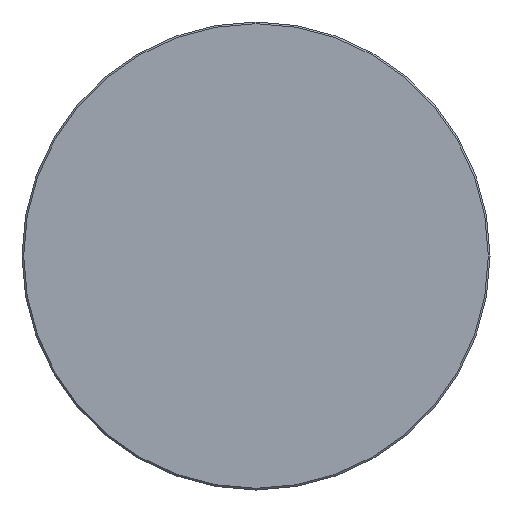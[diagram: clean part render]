
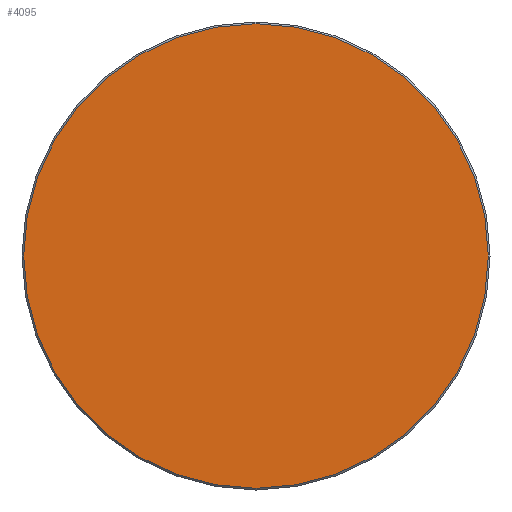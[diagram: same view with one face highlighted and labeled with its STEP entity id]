
A CAD part, left-side view. The second image highlights one B-rep face of the part: STEP entity #4095.
In plain terms, the highlighted planar face has unit normal (-1, 0, 0).
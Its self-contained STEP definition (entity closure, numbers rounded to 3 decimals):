
#194=CARTESIAN_POINT('',(-99.828,0.,0.));
#195=DIRECTION('',(-1.,0.,0.));
#196=DIRECTION('',(0.,-1.,0.));
#197=AXIS2_PLACEMENT_3D('',#194,#195,#196);
#199=CARTESIAN_POINT('',(-99.828,0.,0.));
#200=DIRECTION('',(-1.,0.,0.));
#201=DIRECTION('',(0.,1.,0.));
#202=AXIS2_PLACEMENT_3D('',#199,#200,#201);
#3351=CARTESIAN_POINT('',(-99.828,-40.2,0.));
#3352=CARTESIAN_POINT('',(-99.828,40.2,0.));
#3353=VERTEX_POINT('',#3351);
#3354=VERTEX_POINT('',#3352);
#4085=CARTESIAN_POINT('',(-99.828,0.,0.));
#4086=DIRECTION('',(-1.,0.,0.));
#4087=DIRECTION('',(0.,1.,0.));
#4088=AXIS2_PLACEMENT_3D('',#4085,#4086,#4087);
#4089=PLANE('',#4088);
#4090=ORIENTED_EDGE('',*,*,#4075,.F.);
#4092=ORIENTED_EDGE('',*,*,#4091,.F.);
#4093=EDGE_LOOP('',(#4090,#4092));
#4094=FACE_OUTER_BOUND('',#4093,.F.);
#198=CIRCLE('',#197,40.2);
#203=CIRCLE('',#202,40.2);
#4075=EDGE_CURVE('',#3353,#3354,#198,.T.);
#4091=EDGE_CURVE('',#3354,#3353,#203,.T.);
#4095=ADVANCED_FACE('',(#4094),#4089,.T.);
